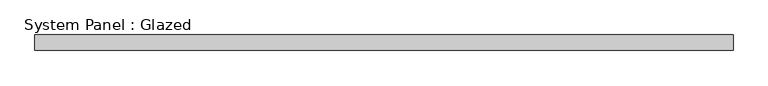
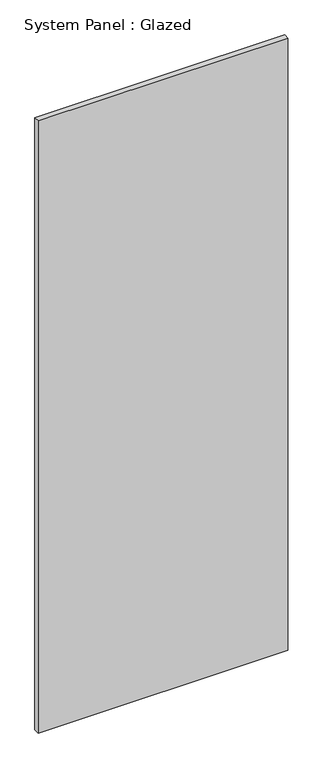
"""IFC4 building model written with IfcOpenShell, lengths in millimetres: plate geometry, System Panel : Glazed."""

from ifc_helpers import new_model, si_unit, origin, origin_with_axes, place, context, project, spatial, polyline, outline, extrude, source, transform, mapped, element, save


def system_panel_glazed_e0c4105e(model_context):
    return source(origin(), model_context, "Body", "SweptSolid", [
        extrude(outline(polyline([(575.3100001, 19.05), (-575.3100001, 19.05), (-575.3100001, 44.45), (575.3100001, 44.45), (575.3100001, 19.05)])), origin_with_axes(), (0.0, 0.0, 1.0), 2984.5),
    ])


if __name__ == "__main__":
    model = new_model("IFC4")
    model_context = context("Model", 3, world=origin())
    ifc_project = project(units=[si_unit("LENGTHUNIT", "METRE", prefix="MILLI")], contexts=[model_context])
    site = spatial("IfcSite", under=ifc_project)
    building = spatial("IfcBuilding", under=site)
    placement = place(None, origin())
    system_panel_glazed_shape = system_panel_glazed_e0c4105e(model_context)
    element("IfcPlate", 1, ObjectType="System Panel : Glazed", at=placement, inside=building, context=model_context, shape_type="MappedRepresentation", body=[
        mapped(system_panel_glazed_shape, transform((0.0, 0.0, 0.0), x_axis=(1.0, 0.0, 0.0), y_axis=(0.0, 1.0, 0.0), z_axis=(0.0, 0.0, 1.0))),
    ])
    save(model, "model.ifc")
